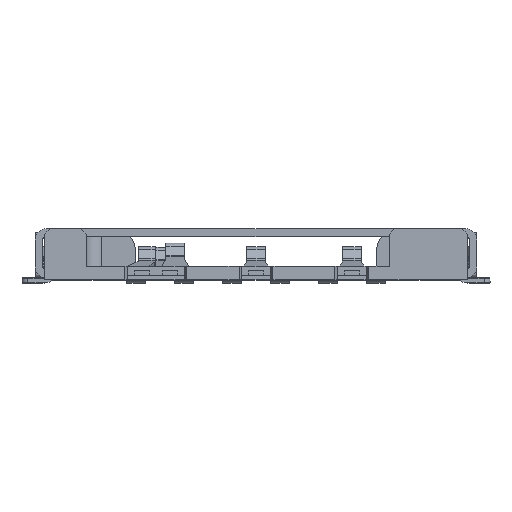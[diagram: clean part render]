
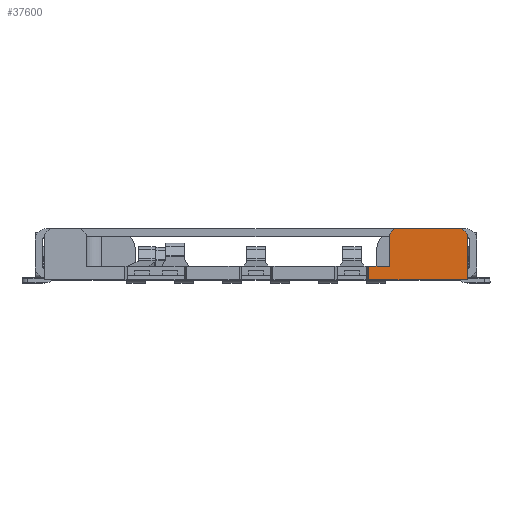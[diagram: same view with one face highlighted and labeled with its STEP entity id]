
A CAD part, top view. The second image highlights one B-rep face of the part: STEP entity #37600.
In plain terms, the highlighted planar face has unit normal (0, 0, 1).
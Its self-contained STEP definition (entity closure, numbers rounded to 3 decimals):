
#63 = ORIENTED_EDGE ( 'NONE', *, *, #1032, .T. ) ;
#533 = CARTESIAN_POINT ( 'NONE',  ( 0., -0.11, 12.6 ) ) ;
#604 = VERTEX_POINT ( 'NONE', #692 ) ;
#692 = CARTESIAN_POINT ( 'NONE',  ( 5.6, 1.09, 12.6 ) ) ;
#1032 = EDGE_CURVE ( 'NONE', #5991, #604, #16037, .T. ) ;
#1203 = EDGE_CURVE ( 'NONE', #38958, #6089, #21055, .T. ) ;
#1576 = CARTESIAN_POINT ( 'NONE',  ( 3.68, 1.24, 12.6 ) ) ;
#2994 = VERTEX_POINT ( 'NONE', #19976 ) ;
#3270 = VECTOR ( 'NONE', #10173, 1000. ) ;
#4565 = VECTOR ( 'NONE', #10168, 1000. ) ;
#5326 = ORIENTED_EDGE ( 'NONE', *, *, #31365, .T. ) ;
#5368 = CARTESIAN_POINT ( 'NONE',  ( 5.6, -0.19, 12.6 ) ) ;
#5991 = VERTEX_POINT ( 'NONE', #25785 ) ;
#6089 = VERTEX_POINT ( 'NONE', #13869 ) ;
#6425 = DIRECTION ( 'NONE',  ( -1., 0., 0. ) ) ;
#7266 = LINE ( 'NONE', #1576, #38241 ) ;
#7366 = DIRECTION ( 'NONE',  ( -1., 0., 0. ) ) ;
#9009 = ORIENTED_EDGE ( 'NONE', *, *, #25014, .T. ) ;
#10168 = DIRECTION ( 'NONE',  ( -1., 0., 0. ) ) ;
#10173 = DIRECTION ( 'NONE',  ( 0., 1., 0. ) ) ;
#10402 = LINE ( 'NONE', #13641, #21074 ) ;
#11554 = CARTESIAN_POINT ( 'NONE',  ( 2.99, -0.19, 12.6 ) ) ;
#12033 = EDGE_LOOP ( 'NONE', ( #13761, #21063, #5326, #19645, #33213, #63, #9009, #39331 ) ) ;
#13641 = CARTESIAN_POINT ( 'NONE',  ( 5.6, 1.24, 12.6 ) ) ;
#13761 = ORIENTED_EDGE ( 'NONE', *, *, #32685, .T. ) ;
#13869 = CARTESIAN_POINT ( 'NONE',  ( 2.99, 0.24, 12.6 ) ) ;
#13902 = CARTESIAN_POINT ( 'NONE',  ( 5.45, 1.24, 12.6 ) ) ;
#14457 = VERTEX_POINT ( 'NONE', #34868 ) ;
#15858 = VECTOR ( 'NONE', #36640, 1000. ) ;
#16037 = LINE ( 'NONE', #28177, #3270 ) ;
#16625 = LINE ( 'NONE', #19462, #4565 ) ;
#17501 = EDGE_CURVE ( 'NONE', #36376, #14457, #20071, .T. ) ;
#17699 = CARTESIAN_POINT ( 'NONE',  ( 3.53, 0.24, 12.6 ) ) ;
#17708 = DIRECTION ( 'NONE',  ( -1., 0., 0. ) ) ;
#18110 = FACE_OUTER_BOUND ( 'NONE', #12033, .T. ) ;
#19462 = CARTESIAN_POINT ( 'NONE',  ( 0., 0.24, 12.6 ) ) ;
#19645 = ORIENTED_EDGE ( 'NONE', *, *, #1203, .F. ) ;
#19976 = CARTESIAN_POINT ( 'NONE',  ( 5.45, 1.24, 12.6 ) ) ;
#20071 = LINE ( 'NONE', #39267, #15858 ) ;
#20749 = PLANE ( 'NONE',  #38045 ) ;
#21055 = LINE ( 'NONE', #11554, #36577 ) ;
#21063 = ORIENTED_EDGE ( 'NONE', *, *, #17501, .F. ) ;
#21074 = VECTOR ( 'NONE', #7366, 1000. ) ;
#23024 = DIRECTION ( 'NONE',  ( -0.707, -0.707, 0. ) ) ;
#23974 = DIRECTION ( 'NONE',  ( 0., 0., -1. ) ) ;
#25014 = EDGE_CURVE ( 'NONE', #604, #2994, #38365, .T. ) ;
#25785 = CARTESIAN_POINT ( 'NONE',  ( 5.6, -0.11, 12.6 ) ) ;
#27756 = VECTOR ( 'NONE', #6425, 1000. ) ;
#28177 = CARTESIAN_POINT ( 'NONE',  ( 5.6, -0.11, 12.6 ) ) ;
#28616 = VECTOR ( 'NONE', #37973, 1000. ) ;
#28696 = EDGE_CURVE ( 'NONE', #2994, #33602, #10402, .T. ) ;
#30520 = EDGE_CURVE ( 'NONE', #5991, #38958, #31701, .T. ) ;
#30786 = DIRECTION ( 'NONE',  ( 0., 1., 0. ) ) ;
#31365 = EDGE_CURVE ( 'NONE', #36376, #6089, #16625, .T. ) ;
#31701 = LINE ( 'NONE', #533, #27756 ) ;
#32685 = EDGE_CURVE ( 'NONE', #33602, #14457, #7266, .T. ) ;
#32904 = CARTESIAN_POINT ( 'NONE',  ( 2.99, -0.11, 12.6 ) ) ;
#33213 = ORIENTED_EDGE ( 'NONE', *, *, #30520, .F. ) ;
#33602 = VERTEX_POINT ( 'NONE', #36820 ) ;
#34868 = CARTESIAN_POINT ( 'NONE',  ( 3.53, 1.09, 12.6 ) ) ;
#36376 = VERTEX_POINT ( 'NONE', #17699 ) ;
#36577 = VECTOR ( 'NONE', #30786, 1000. ) ;
#36640 = DIRECTION ( 'NONE',  ( 0., 1., 0. ) ) ;
#36820 = CARTESIAN_POINT ( 'NONE',  ( 3.68, 1.24, 12.6 ) ) ;
#37600 = ADVANCED_FACE ( 'NONE', ( #18110 ), #20749, .F. ) ;
#37973 = DIRECTION ( 'NONE',  ( -0.707, 0.707, 0. ) ) ;
#38045 = AXIS2_PLACEMENT_3D ( 'NONE', #5368, #23974, #17708 ) ;
#38241 = VECTOR ( 'NONE', #23024, 1000. ) ;
#38365 = LINE ( 'NONE', #13902, #28616 ) ;
#38958 = VERTEX_POINT ( 'NONE', #32904 ) ;
#39267 = CARTESIAN_POINT ( 'NONE',  ( 3.53, 1.24, 12.6 ) ) ;
#39331 = ORIENTED_EDGE ( 'NONE', *, *, #28696, .T. ) ;
